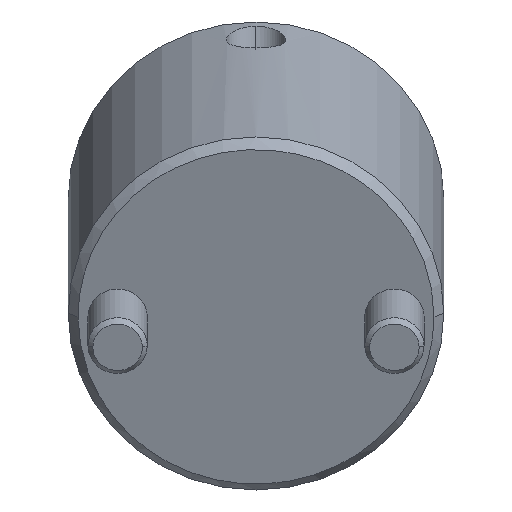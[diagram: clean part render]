
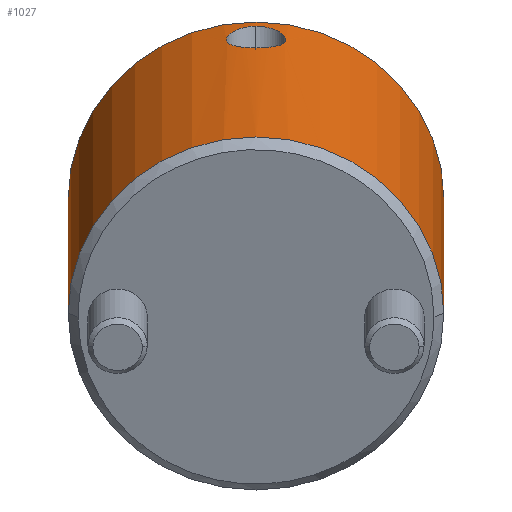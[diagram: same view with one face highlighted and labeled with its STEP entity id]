
A CAD part, front view. The second image highlights one B-rep face of the part: STEP entity #1027.
In plain terms, the highlighted cylindrical face has radius 19 mm (diameter 38 mm), a partial arc.
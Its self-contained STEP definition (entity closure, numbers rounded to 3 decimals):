
#760=CARTESIAN_POINT('Vertex',(0.,19.,1.)) ;
#763=CARTESIAN_POINT('Axis2P3D Location',(0.,0.,1.)) ;
#767=CARTESIAN_POINT('Vertex',(0.,-19.,1.)) ;
#919=CARTESIAN_POINT('Axis2P3D Location',(0.,0.,-1.8)) ;
#924=CARTESIAN_POINT('Line Origine',(0.,19.,-1.8)) ;
#928=CARTESIAN_POINT('Vertex',(0.,19.,35.)) ;
#931=CARTESIAN_POINT('Axis2P3D Location',(0.,0.,35.)) ;
#935=CARTESIAN_POINT('Vertex',(0.,-19.,35.)) ;
#938=CARTESIAN_POINT('Line Origine',(0.,-19.,-1.8)) ;
#950=CARTESIAN_POINT('Control Point',(19.,0.,33.73)) ;
#951=CARTESIAN_POINT('Control Point',(19.,0.079,33.73)) ;
#952=CARTESIAN_POINT('Control Point',(19.,0.158,33.727)) ;
#953=CARTESIAN_POINT('Control Point',(18.999,0.237,33.721)) ;
#954=CARTESIAN_POINT('Control Point',(18.995,0.474,33.695)) ;
#955=CARTESIAN_POINT('Control Point',(18.988,0.71,33.641)) ;
#956=CARTESIAN_POINT('Control Point',(18.981,0.869,33.592)) ;
#957=CARTESIAN_POINT('Control Point',(18.965,1.177,33.474)) ;
#958=CARTESIAN_POINT('Control Point',(18.944,1.464,33.312)) ;
#959=CARTESIAN_POINT('Control Point',(18.933,1.604,33.218)) ;
#960=CARTESIAN_POINT('Control Point',(18.908,1.875,33.011)) ;
#961=CARTESIAN_POINT('Control Point',(18.882,2.118,32.766)) ;
#962=CARTESIAN_POINT('Control Point',(18.869,2.233,32.633)) ;
#963=CARTESIAN_POINT('Control Point',(18.836,2.5,32.278)) ;
#964=CARTESIAN_POINT('Control Point',(18.806,2.71,31.875)) ;
#965=CARTESIAN_POINT('Control Point',(18.791,2.811,31.624)) ;
#966=CARTESIAN_POINT('Control Point',(18.771,2.939,31.185)) ;
#967=CARTESIAN_POINT('Control Point',(18.762,2.995,30.734)) ;
#968=CARTESIAN_POINT('Control Point',(18.761,3.006,30.555)) ;
#969=CARTESIAN_POINT('Control Point',(18.761,3.002,30.198)) ;
#970=CARTESIAN_POINT('Control Point',(18.769,2.952,29.847)) ;
#971=CARTESIAN_POINT('Control Point',(18.775,2.916,29.674)) ;
#972=CARTESIAN_POINT('Control Point',(18.79,2.822,29.339)) ;
#973=CARTESIAN_POINT('Control Point',(18.81,2.683,29.023)) ;
#974=CARTESIAN_POINT('Control Point',(18.821,2.603,28.87)) ;
#975=CARTESIAN_POINT('Control Point',(18.846,2.423,28.578)) ;
#976=CARTESIAN_POINT('Control Point',(18.872,2.207,28.317)) ;
#977=CARTESIAN_POINT('Control Point',(18.885,2.09,28.195)) ;
#978=CARTESIAN_POINT('Control Point',(18.912,1.841,27.969)) ;
#979=CARTESIAN_POINT('Control Point',(18.936,1.563,27.78)) ;
#980=CARTESIAN_POINT('Control Point',(18.948,1.418,27.696)) ;
#981=CARTESIAN_POINT('Control Point',(18.972,1.063,27.523)) ;
#982=CARTESIAN_POINT('Control Point',(18.99,0.68,27.41)) ;
#983=CARTESIAN_POINT('Control Point',(18.997,0.455,27.366)) ;
#984=CARTESIAN_POINT('Control Point',(19.,0.228,27.344)) ;
#985=CARTESIAN_POINT('Control Point',(19.,0.,27.344)) ;
#986=CARTESIAN_POINT('Vertex',(19.,0.,33.73)) ;
#988=CARTESIAN_POINT('Vertex',(19.,0.,27.344)) ;
#992=CARTESIAN_POINT('Control Point',(19.,0.,27.344)) ;
#993=CARTESIAN_POINT('Control Point',(19.,-0.084,27.344)) ;
#994=CARTESIAN_POINT('Control Point',(19.,-0.167,27.347)) ;
#995=CARTESIAN_POINT('Control Point',(18.999,-0.25,27.353)) ;
#996=CARTESIAN_POINT('Control Point',(18.995,-0.499,27.379)) ;
#997=CARTESIAN_POINT('Control Point',(18.986,-0.745,27.432)) ;
#998=CARTESIAN_POINT('Control Point',(18.979,-0.909,27.479)) ;
#999=CARTESIAN_POINT('Control Point',(18.953,-1.384,27.653)) ;
#1000=CARTESIAN_POINT('Control Point',(18.917,-1.81,27.924)) ;
#1001=CARTESIAN_POINT('Control Point',(18.889,-2.071,28.145)) ;
#1002=CARTESIAN_POINT('Control Point',(18.841,-2.465,28.594)) ;
#1003=CARTESIAN_POINT('Control Point',(18.801,-2.743,29.131)) ;
#1004=CARTESIAN_POINT('Control Point',(18.787,-2.837,29.372)) ;
#1005=CARTESIAN_POINT('Control Point',(18.769,-2.954,29.795)) ;
#1006=CARTESIAN_POINT('Control Point',(18.762,-3.,30.236)) ;
#1007=CARTESIAN_POINT('Control Point',(18.761,-3.007,30.413)) ;
#1008=CARTESIAN_POINT('Control Point',(18.762,-2.997,30.773)) ;
#1009=CARTESIAN_POINT('Control Point',(18.771,-2.939,31.131)) ;
#1010=CARTESIAN_POINT('Control Point',(18.778,-2.898,31.31)) ;
#1011=CARTESIAN_POINT('Control Point',(18.802,-2.743,31.832)) ;
#1012=CARTESIAN_POINT('Control Point',(18.838,-2.488,32.314)) ;
#1013=CARTESIAN_POINT('Control Point',(18.865,-2.279,32.609)) ;
#1014=CARTESIAN_POINT('Control Point',(18.906,-1.921,32.992)) ;
#1015=CARTESIAN_POINT('Control Point',(18.941,-1.503,33.286)) ;
#1016=CARTESIAN_POINT('Control Point',(18.952,-1.362,33.372)) ;
#1017=CARTESIAN_POINT('Control Point',(18.975,-1.019,33.548)) ;
#1018=CARTESIAN_POINT('Control Point',(18.991,-0.648,33.663)) ;
#1019=CARTESIAN_POINT('Control Point',(18.997,-0.432,33.708)) ;
#1020=CARTESIAN_POINT('Control Point',(19.,-0.217,33.73)) ;
#1021=CARTESIAN_POINT('Control Point',(19.,0.,33.73)) ;
#764=DIRECTION('Axis2P3D Direction',(0.,0.,1.)) ;
#920=DIRECTION('Axis2P3D Direction',(0.,-0.,1.)) ;
#921=DIRECTION('Axis2P3D XDirection',(0.,-1.,0.)) ;
#925=DIRECTION('Vector Direction',(0.,0.,1.)) ;
#932=DIRECTION('Axis2P3D Direction',(0.,-0.,1.)) ;
#939=DIRECTION('Vector Direction',(0.,0.,1.)) ;
#765=AXIS2_PLACEMENT_3D('Circle Axis2P3D',#763,#764,$) ;
#922=AXIS2_PLACEMENT_3D('Cylinder Axis2P3D',#919,#920,#921) ;
#933=AXIS2_PLACEMENT_3D('Circle Axis2P3D',#931,#932,$) ;
#944=ORIENTED_EDGE('',*,*,#930,.F.) ;
#945=ORIENTED_EDGE('',*,*,#937,.T.) ;
#946=ORIENTED_EDGE('',*,*,#942,.T.) ;
#947=ORIENTED_EDGE('',*,*,#769,.F.) ;
#1024=ORIENTED_EDGE('',*,*,#990,.T.) ;
#1025=ORIENTED_EDGE('',*,*,#1022,.T.) ;
#1026=FACE_BOUND('',#1023,.T.) ;
#926=VECTOR('Line Direction',#925,1.) ;
#940=VECTOR('Line Direction',#939,1.) ;
#1027=ADVANCED_FACE('MANIFOLD_SOLID_BREP #1114',(#948,#1026),#923,.T.) ;
#949=B_SPLINE_CURVE_WITH_KNOTS('',5,(#950,#951,#952,#953,#954,#955,#956,#957,#958,#959,#960,#961,#962,#963,#964,#965,#966,#967,#968,#969,#970,#971,#972,#973,#974,#975,#976,#977,#978,#979,#980,#981,#982,#983,#984,#985),.UNSPECIFIED.,.F.,.U.,(6,3,3,3,3,3,3,3,3,3,3,6),(0.,0.58,1.759,2.973,4.216,6.084,7.319,8.543,9.755,10.958,12.159,13.791),.UNSPECIFIED.) ;
#991=B_SPLINE_CURVE_WITH_KNOTS('',5,(#992,#993,#994,#995,#996,#997,#998,#999,#1000,#1001,#1002,#1003,#1004,#1005,#1006,#1007,#1008,#1009,#1010,#1011,#1012,#1013,#1014,#1015,#1016,#1017,#1018,#1019,#1020,#1021),.UNSPECIFIED.,.F.,.U.,(6,3,3,3,3,3,3,3,3,6),(0.,0.601,1.804,4.221,6.049,7.276,8.518,10.997,12.197,13.788),.UNSPECIFIED.) ;
#766=CIRCLE('generated circle',#765,19.) ;
#934=CIRCLE('generated circle',#933,19.) ;
#923=CYLINDRICAL_SURFACE('generated cylinder',#922,19.) ;
#769=EDGE_CURVE('',#761,#768,#766,.F.) ;
#930=EDGE_CURVE('',#929,#761,#927,.F.) ;
#937=EDGE_CURVE('',#929,#936,#934,.F.) ;
#942=EDGE_CURVE('',#936,#768,#941,.F.) ;
#990=EDGE_CURVE('',#987,#989,#949,.T.) ;
#1022=EDGE_CURVE('',#989,#987,#991,.T.) ;
#943=EDGE_LOOP('',(#944,#945,#946,#947)) ;
#1023=EDGE_LOOP('',(#1024,#1025)) ;
#948=FACE_OUTER_BOUND('',#943,.T.) ;
#927=LINE('Line',#924,#926) ;
#941=LINE('Line',#938,#940) ;
#761=VERTEX_POINT('',#760) ;
#768=VERTEX_POINT('',#767) ;
#929=VERTEX_POINT('',#928) ;
#936=VERTEX_POINT('',#935) ;
#987=VERTEX_POINT('',#986) ;
#989=VERTEX_POINT('',#988) ;
